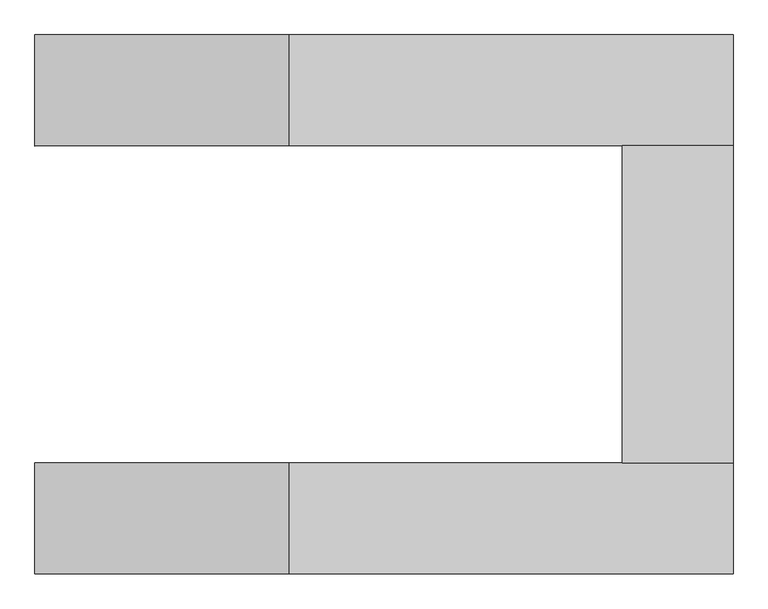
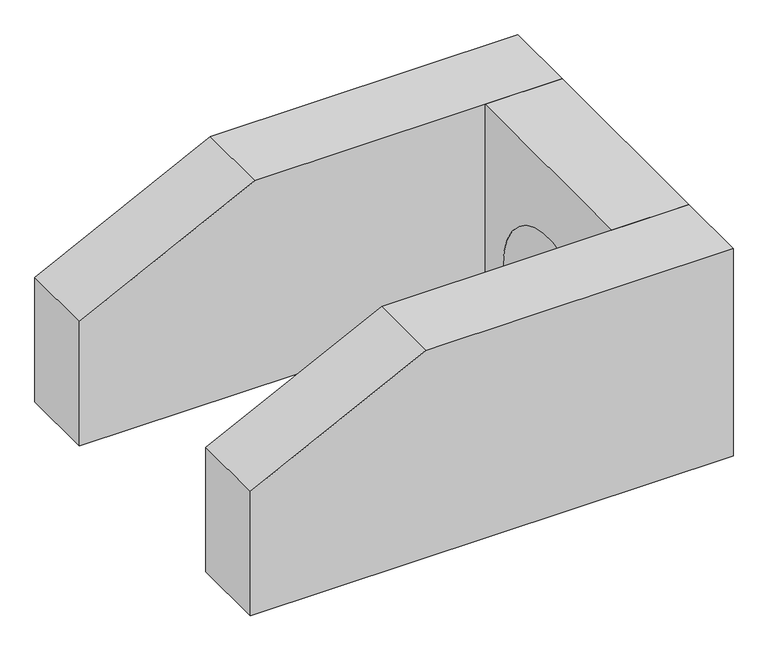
"""IFC4 building model written with IfcOpenShell, lengths in millimetres: proxy geometry, Modèles génériques 5 : Modèles génériques 5."""

from ifc_helpers import new_model, si_unit, point, frame, frame_2d, origin, place, context, project, spatial, polyline, circle_curve, trimmed, segment, composite_curve, outline, extrude, source, transform, mapped, element, save


def generic_models_a69fad3e(model_context):
    return source(origin(), model_context, "Body", "SweptSolid", [
        extrude(outline(composite_curve([segment(polyline([(3153.736413, 1000.0), (3153.736413, 0.0), (2852.7339004, 0.0)]), True, "CONTINUOUS"), segment(trimmed(circle_curve(frame_2d((2653.736413, 300.0)), 360.0), [point((2852.7339004, 0.0))], [point((2454.7389256, 0.0))], True, "CARTESIAN"), True, "CONTINUOUS"), segment(polyline([(2454.7389256, 0.0), (2153.736413, 0.0), (2153.736413, 1000.0), (3153.736413, 1000.0)]), True, "CONTINUOUS")], self_intersect=False)), frame((-7578.7993027, 0.0, 0.0), z_axis=(1.0, 0.0, 0.0), x_axis=(0.0, 1.0, 0.0)), (0.0, 0.0, 1.0), 350.0),
        extrude(outline(polyline([(600.0, -9428.7993027), (0.0, -9428.7993027), (0.0, -7228.7993027), (1000.0, -7228.7993027), (1000.0, -8628.7993027), (600.0, -9428.7993027)])), frame((0.0, 3153.736413, 0.0), z_axis=(0.0, 1.0, 0.0), x_axis=(0.0, 0.0, 1.0)), (0.0, 0.0, 1.0), 350.0),
        extrude(outline(polyline([(600.0, -9428.7993027), (0.0, -9428.7993027), (0.0, -7228.7993027), (1000.0, -7228.7993027), (1000.0, -8628.7993027), (600.0, -9428.7993027)])), frame((0.0, 1803.736413, 0.0), z_axis=(0.0, 1.0, 0.0), x_axis=(0.0, 0.0, 1.0)), (0.0, 0.0, 1.0), 350.0),
    ])


if __name__ == "__main__":
    model = new_model("IFC4")
    model_context = context("Model", 3, world=origin())
    ifc_project = project(units=[si_unit("LENGTHUNIT", "METRE", prefix="MILLI")], contexts=[model_context])
    site = spatial("IfcSite", under=ifc_project)
    building = spatial("IfcBuilding", under=site)
    placement = place(None, origin())
    generic_models_shape = generic_models_a69fad3e(model_context)
    element("IfcBuildingElementProxy", 1, Name="Modèles génériques 5 : Modèles génériques 5", ObjectType="Modèles génériques 5 : Modèles génériques 5", at=placement, inside=building, context=model_context, shape_type="MappedRepresentation", body=[
        mapped(generic_models_shape, transform((0.0, 0.0, 0.0), x_axis=(1.0, 0.0, 0.0), y_axis=(0.0, 1.0, 0.0), z_axis=(0.0, 0.0, 1.0))),
    ])
    save(model, "model.ifc")
